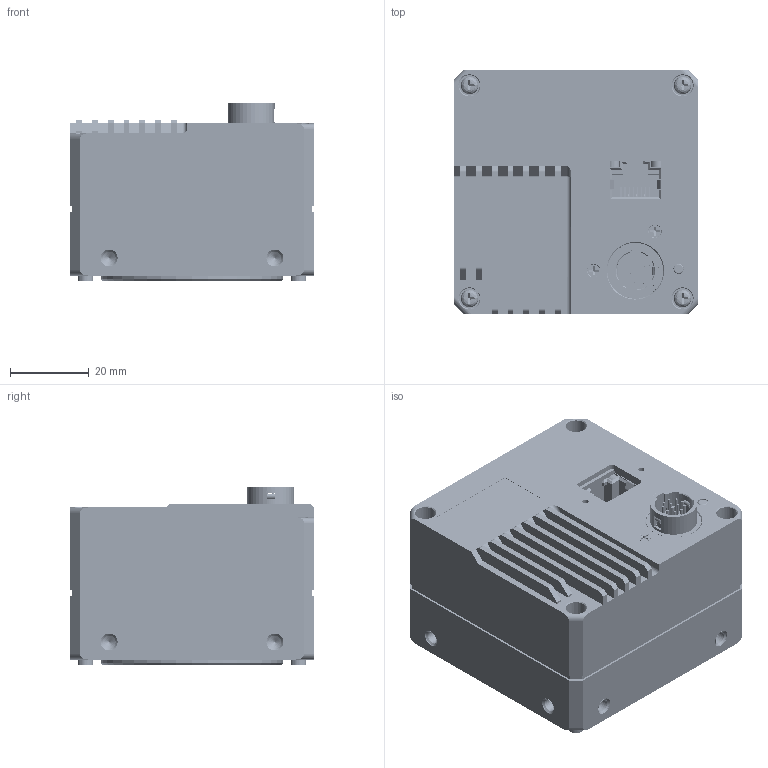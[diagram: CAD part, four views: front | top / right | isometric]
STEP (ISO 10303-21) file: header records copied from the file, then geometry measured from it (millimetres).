
FILE_DESCRIPTION((''),'2;1');
FILE_NAME('4K00_ASM','2021-06-23T15:01:20',('mafangning'),(''),'CREO PARAMETRIC BY PTC INC, 2020044','CREO PARAMETRIC BY PTC INC, 2020044','');
FILE_SCHEMA(('CONFIG_CONTROL_DESIGN'));
Products named in the file (13): DE-14-012664; DE-18-000014; 193100326_SC-T1M2X3-SUS_; MV-20203REV10-2021051011-202105; 193500378; DE-19-000075; DE-14-000482; DE-14-012667; D-01-35-26-0096; HR10A-10R-12PB; SC-KM2X4B; 193100311_SC-PM2_5X12L4; 4K00_ASM
Assembly tree (22 placements, depth 2):
  4K00_ASM
    DE-14-012664
    DE-18-000014
    193100326_SC-T1M2X3-SUS_  x7
    MV-20203REV10-2021051011-202105
    193500378
    DE-19-000075
    DE-14-000482
    DE-14-012667
    D-01-35-26-0096
    HR10A-10R-12PB
    SC-KM2X4B  x2
    193100311_SC-PM2_5X12L4  x4
Bounding box: 62 x 62 x 45.34 mm (x, y, z)
Volume: 139910.8 mm3; surface area: 48548.2 mm2
Topology: 23 solids, 1923 shells, 9570 faces, 37895 edges, 29503 vertices
Faces by surface type: plane 7020, cylinder 2160, cone 167, sphere 106, bspline 67, torus 50
Entity records: 380449 total; most frequent: CARTESIAN_POINT 85981, DIRECTION 57005, ORIENTED_EDGE 52105, EDGE_CURVE 36625, VECTOR 30117, LINE 30117, VERTEX_POINT 28885, AXIS2_PLACEMENT_3D 13444
